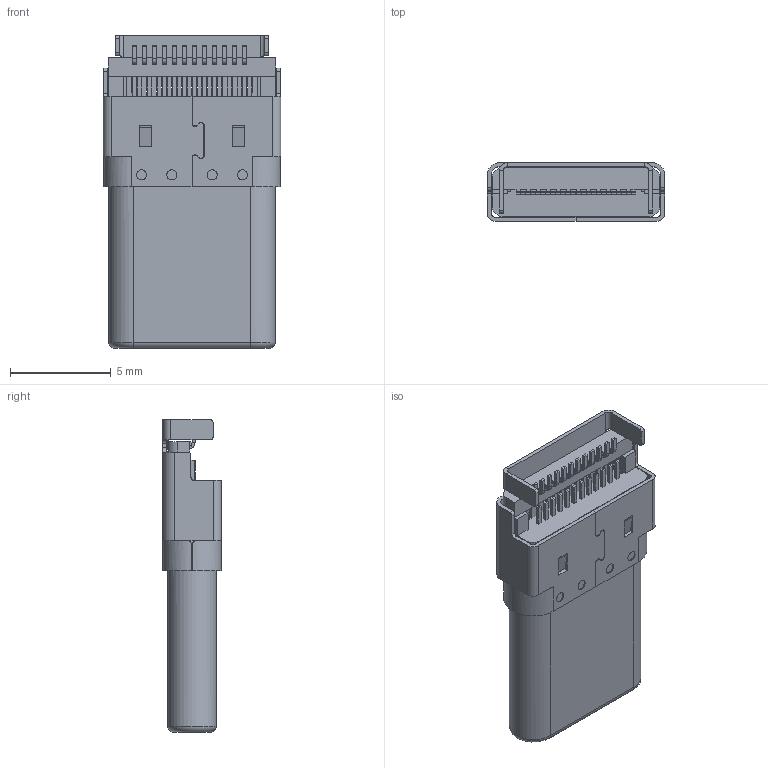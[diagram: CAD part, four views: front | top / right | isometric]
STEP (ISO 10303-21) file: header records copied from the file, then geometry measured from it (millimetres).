
FILE_DESCRIPTION((''),'2;1');
FILE_NAME('PRT0001','2022-06-18T11:06:41',('Administrator'),(''),'CREO PARAMETRIC BY PTC INC, 2019224','CREO PARAMETRIC BY PTC INC, 2019224','');
FILE_SCHEMA(('CONFIG_CONTROL_DESIGN'));
Products named in the file (1): PRT0001
Bounding box: 8.8 x 2.9 x 15.5 mm (x, y, z)
Volume: 197.1 mm3; surface area: 1558.4 mm2
Topology: 2 solids, 26 shells, 3104 faces, 8241 edges, 5138 vertices
Faces by surface type: plane 2380, cylinder 632, bspline 52, sphere 16, torus 12, cone 12
Entity records: 96718 total; most frequent: CARTESIAN_POINT 20058, ORIENTED_EDGE 16244, DIRECTION 15231, EDGE_CURVE 8221, VECTOR 6541, LINE 6541, VERTEX_POINT 5138, AXIS2_PLACEMENT_3D 4345
